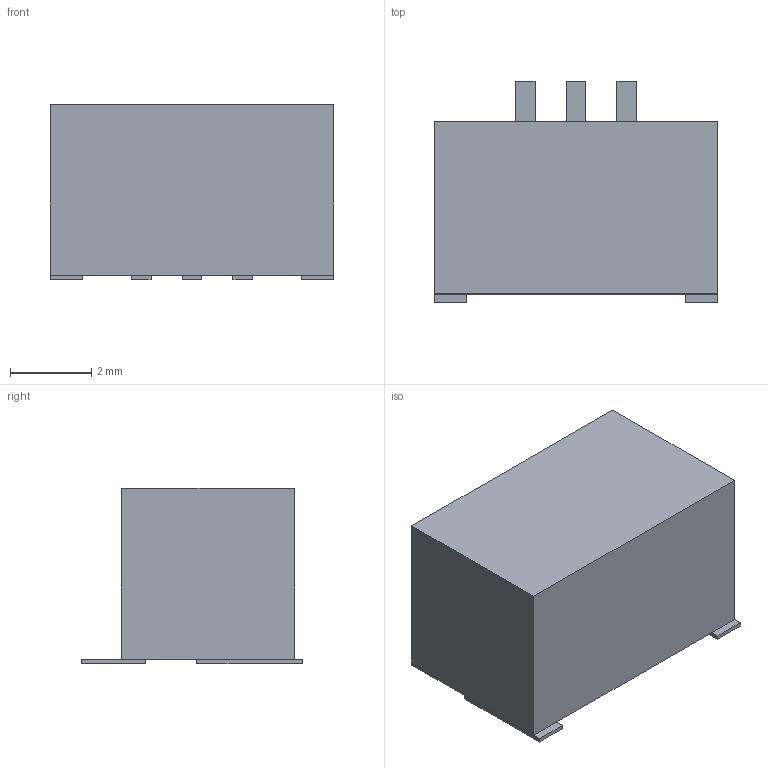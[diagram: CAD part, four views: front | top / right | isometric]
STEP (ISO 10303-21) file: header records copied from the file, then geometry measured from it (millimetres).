
FILE_DESCRIPTION(('FreeCAD Model'),'2;1');
FILE_NAME('/var/www/3D/0T/407010.3.14.stp','2025-01-10T13:28:16',( 'Author'),(''),'Open CASCADE STEP processor 6.9','FreeCAD','Unknown' );
FILE_SCHEMA(('AUTOMOTIVE_DESIGN { 1 0 10303 214 1 1 1 1 }'));
Length unit declared in the file: millimetre
Products named in the file (3): ASSEMBLY; Body; Pins
Assembly tree (2 placements, depth 2):
  ASSEMBLY
    Body
    Pins
Bounding box: 7 x 5.44 x 4.3 mm (x, y, z)
Volume: 125.6 mm3; surface area: 169.5 mm2
Topology: 6 solids, 6 shells, 36 faces, 72 edges, 48 vertices
Faces by surface type: plane 36
Entity records: 1946 total; most frequent: CARTESIAN_POINT 303, DIRECTION 294, LINE 216, VECTOR 216, ORIENTED_EDGE 144, PCURVE 144, DEFINITIONAL_REPRESENTATION 144, EDGE_CURVE 72
